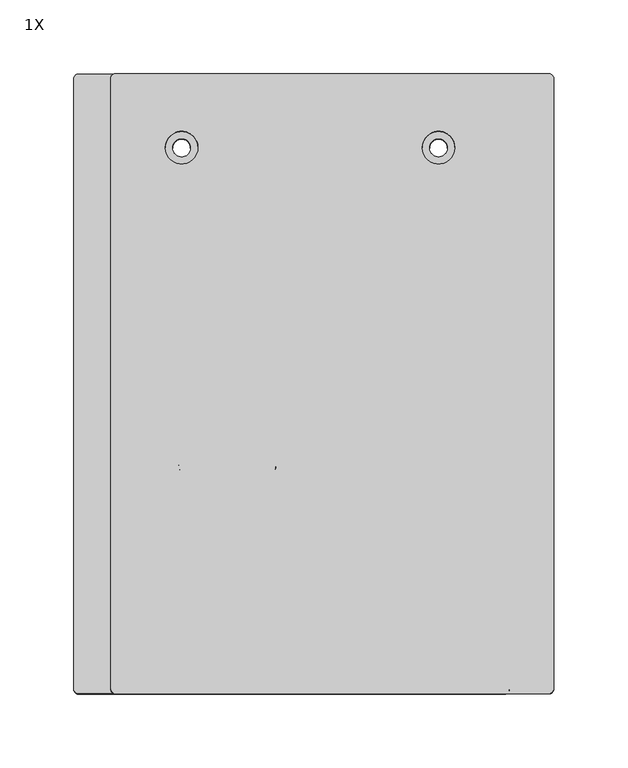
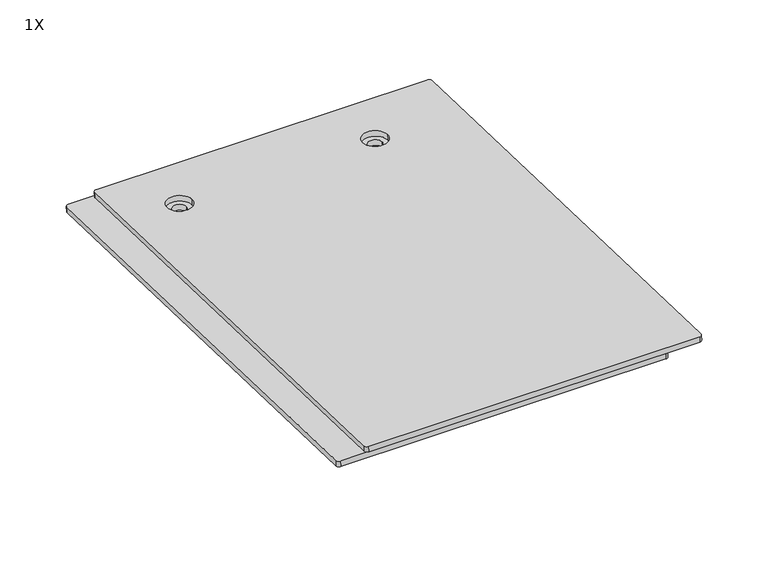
"""IFC4 building model written with IfcOpenShell, lengths in millimetres: proxy geometry, ML PhotonRoof Flat Anthracite Premium : 1X."""

from ifc_helpers import new_model, si_unit, point, frame, frame_2d, origin, place, context, project, spatial, polyline, circle_curve, trimmed, segment, composite_curve, outline, extrude, source, transform, mapped, element, save


def proxy_1x_fa84d4f5(model_context):
    return source(origin(), model_context, "Body", "SweptSolid", [
        extrude(outline(composite_curve([segment(trimmed(circle_curve(frame_2d((238.0732143, -3.0)), 3.0), [point((238.0732143, 0.0))], [point((241.0732143, -3.0))], False, "CARTESIAN"), True, "CONTINUOUS"), segment(polyline([(241.0732143, -3.0), (241.0732143, -417.0)]), True, "CONTINUOUS"), segment(trimmed(circle_curve(frame_2d((238.0732143, -417.0)), 3.0), [point((241.0732143, -417.0))], [point((238.0732143, -420.0))], False, "CARTESIAN"), True, "CONTINUOUS"), segment(polyline([(238.0732143, -420.0), (-55.9267857, -420.0)]), True, "CONTINUOUS"), segment(trimmed(circle_curve(frame_2d((-55.9267857, -417.0)), 3.0), [point((-55.9267857, -420.0))], [point((-58.9267857, -417.0))], False, "CARTESIAN"), True, "CONTINUOUS"), segment(polyline([(-58.9267857, -417.0), (-58.9267857, -3.0)]), True, "CONTINUOUS"), segment(trimmed(circle_curve(frame_2d((-55.9267857, -3.0)), 3.0), [point((-58.9267857, -3.0))], [point((-55.9267857, 0.0))], False, "CARTESIAN"), True, "CONTINUOUS"), segment(polyline([(-55.9267857, 0.0), (238.0732143, 0.0)]), True, "CONTINUOUS")], self_intersect=False), holes=[composite_curve([segment(trimmed(circle_curve(frame_2d((-10.9267857, -50.0)), 11.0), [point((-21.9267857, -50.0))], [point((0.0732143, -50.0))], True, "CARTESIAN"), True, "CONTINUOUS"), segment(trimmed(circle_curve(frame_2d((-10.9267857, -50.0)), 11.0), [point((0.0732143, -50.0))], [point((-21.9267857, -50.0))], True, "CARTESIAN"), True, "CONTINUOUS")], self_intersect=False), composite_curve([segment(trimmed(circle_curve(frame_2d((163.0732143, -50.0)), 11.0), [point((152.0732143, -50.0))], [point((174.0732143, -50.0))], True, "CARTESIAN"), True, "CONTINUOUS"), segment(trimmed(circle_curve(frame_2d((163.0732143, -50.0)), 11.0), [point((174.0732143, -50.0))], [point((152.0732143, -50.0))], True, "CARTESIAN"), True, "CONTINUOUS")], self_intersect=False)]), frame((-91.0732143, 50.1323897, 3.4268794), z_axis=(0.0, 0.031413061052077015, 0.9995064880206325), x_axis=(1.0, 0.0, 0.0)), (0.0, 0.0, 1.0), 5.0),
        extrude(outline(composite_curve([segment(trimmed(circle_curve(frame_2d((327.0, -3.0)), 3.0), [point((327.0, 0.0))], [point((330.0, -3.0))], False, "CARTESIAN"), True, "CONTINUOUS"), segment(polyline([(330.0, -3.0), (330.0, -417.0)]), True, "CONTINUOUS"), segment(trimmed(circle_curve(frame_2d((327.0, -417.0)), 3.0), [point((330.0, -417.0))], [point((327.0, -420.0))], False, "CARTESIAN"), True, "CONTINUOUS"), segment(polyline([(327.0, -420.0), (38.0, -420.0)]), True, "CONTINUOUS"), segment(trimmed(circle_curve(frame_2d((38.0, -417.0)), 3.0), [point((38.0, -420.0))], [point((35.0, -417.0))], False, "CARTESIAN"), True, "CONTINUOUS"), segment(polyline([(35.0, -417.0), (35.0, -3.0)]), True, "CONTINUOUS"), segment(trimmed(circle_curve(frame_2d((38.0, -3.0)), 3.0), [point((35.0, -3.0))], [point((38.0, 0.0))], False, "CARTESIAN"), True, "CONTINUOUS"), segment(polyline([(38.0, 0.0), (327.0, 0.0)]), True, "CONTINUOUS")], self_intersect=False), holes=[composite_curve([segment(trimmed(circle_curve(frame_2d((108.0, -50.0)), 6.0), [point((102.0, -50.0))], [point((114.0, -50.0))], True, "CARTESIAN"), True, "CONTINUOUS"), segment(trimmed(circle_curve(frame_2d((108.0, -50.0)), 6.0), [point((114.0, -50.0))], [point((102.0, -50.0))], True, "CARTESIAN"), True, "CONTINUOUS")], self_intersect=False), composite_curve([segment(trimmed(circle_curve(frame_2d((282.0, -50.0)), 6.0), [point((276.0, -50.0))], [point((288.0, -50.0))], True, "CARTESIAN"), True, "CONTINUOUS"), segment(trimmed(circle_curve(frame_2d((282.0, -50.0)), 6.0), [point((288.0, -50.0))], [point((276.0, -50.0))], True, "CARTESIAN"), True, "CONTINUOUS")], self_intersect=False)]), frame((-210.0, 49.9753244, -1.5706531), z_axis=(0.0, 0.031413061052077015, 0.9995064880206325), x_axis=(1.0, 0.0, 0.0)), (0.0, 0.0, 1.0), 5.0),
        extrude(outline(composite_curve([segment(polyline([(-9.0, -9.0), (-9.0, 39.0)]), True, "CONTINUOUS"), segment(trimmed(circle_curve(frame_2d((0.0, 39.0)), 9.0), [point((-9.0, 39.0))], [point((0.0, 48.0))], False, "CARTESIAN"), True, "CONTINUOUS"), segment(polyline([(0.0, 48.0), (48.0, 48.0)]), True, "CONTINUOUS"), segment(trimmed(circle_curve(frame_2d((48.0, 39.0)), 9.0), [point((48.0, 48.0))], [point((57.0, 39.0))], False, "CARTESIAN"), True, "CONTINUOUS"), segment(polyline([(57.0, 39.0), (57.0, -9.0)]), True, "CONTINUOUS"), segment(trimmed(circle_curve(frame_2d((48.0, -9.0)), 9.0), [point((57.0, -9.0))], [point((48.0, -18.0))], False, "CARTESIAN"), True, "CONTINUOUS"), segment(polyline([(48.0, -18.0), (0.0, -18.0)]), True, "CONTINUOUS"), segment(trimmed(circle_curve(frame_2d((0.0, -9.0)), 9.0), [point((0.0, -18.0))], [point((-9.0, -9.0))], False, "CARTESIAN"), True, "CONTINUOUS")], self_intersect=False)), frame((-56.0, -215.5221561, -13.2363216), z_axis=(0.0, 0.031413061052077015, 0.9995064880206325), x_axis=(0.0, 0.9995064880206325, -0.031413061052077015)), (0.0, 0.0, 1.0), 20.0),
        extrude(outline(polyline([(44.977792, -1.4135877), (44.9149658, -3.4126007), (27.9233555, -2.8785787), (27.3579204, -20.8696955), (24.359401, -20.7754563), (24.9876622, -0.7853265), (44.977792, -1.4135877)])), frame((-27.0, 0.0, 0.0), z_axis=(1.0, 0.0, 0.0), x_axis=(0.0, 1.0, 0.0)), (0.0, 0.0, 1.0), 50.0),
    ])


if __name__ == "__main__":
    model = new_model("IFC4")
    model_context = context("Model", 3, world=origin())
    ifc_project = project(units=[si_unit("LENGTHUNIT", "METRE", prefix="MILLI")], contexts=[model_context])
    site = spatial("IfcSite", under=ifc_project)
    building = spatial("IfcBuilding", under=site)
    placement = place(None, origin())
    proxy_1x_shape = proxy_1x_fa84d4f5(model_context)
    element("IfcBuildingElementProxy", 1, Name="ML PhotonRoof Flat Anthracite Premium : 1X", ObjectType="ML PhotonRoof Flat Anthracite Premium : 1X", at=placement, inside=building, context=model_context, shape_type="MappedRepresentation", body=[
        mapped(proxy_1x_shape, transform((0.0, 0.0, 0.0), x_axis=(1.0, 0.0, 0.0), y_axis=(0.0, 1.0, 0.0), z_axis=(0.0, 0.0, 1.0))),
    ])
    save(model, "model.ifc")
